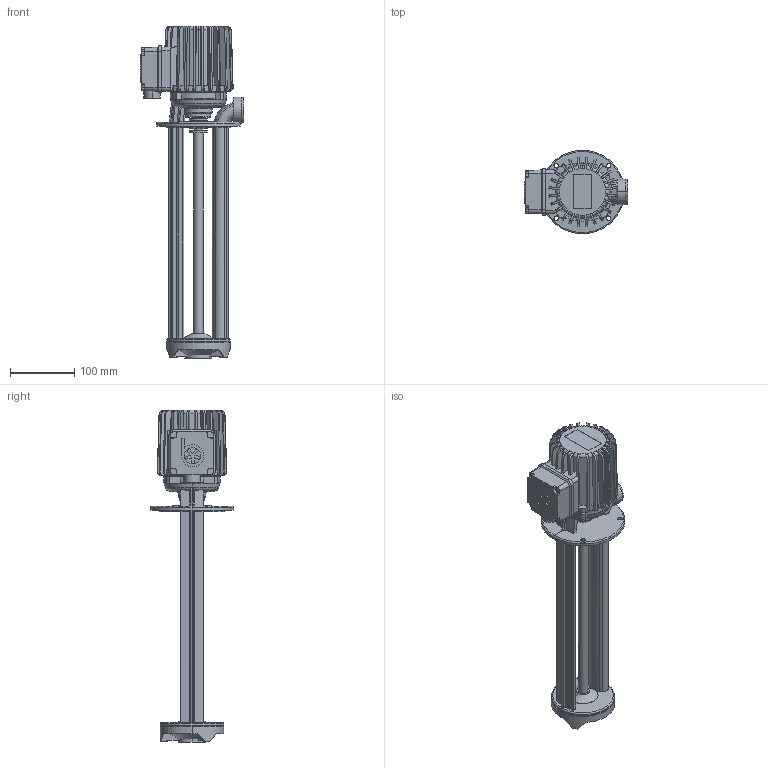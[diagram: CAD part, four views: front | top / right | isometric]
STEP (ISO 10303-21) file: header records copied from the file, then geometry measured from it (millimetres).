
FILE_DESCRIPTION(('no description'),'unknown implementation level');
FILE_NAME('TB63_350_27.stp',' ',('K. H. Brinkmann GmbH & Co. KG'),('CADClick - KiM GmbH - www.kimweb.de'),'unknown preprocess','ACIS','unknown authorization');
FILE_SCHEMA(('automotive_design'));
Length unit declared in the file: millimetre
Products named in the file (3): 1; 2; 3
Bounding box: 160 x 130 x 515 mm (x, y, z)
Volume: 1746976.1 mm3; surface area: 278015.3 mm2
Topology: 3 solids, 3 shells, 558 faces, 1551 edges, 1016 vertices
Faces by surface type: plane 251, cylinder 177, torus 67, cone 63
Entity records: 38590 total; most frequent: CARTESIAN_POINT 6926, STYLED_ITEM 3128, PRESENTATION_STYLE_ASSIGNMENT 3128, COLOUR_RGB 3128, ORIENTED_EDGE 3102, DIRECTION 2996, EDGE_CURVE 1551, CURVE_STYLE 1551
